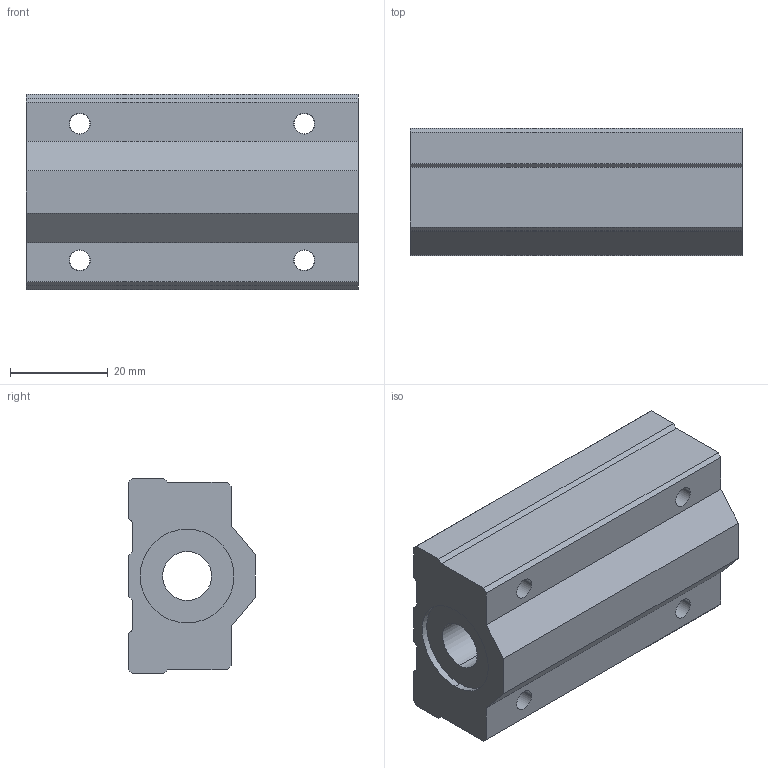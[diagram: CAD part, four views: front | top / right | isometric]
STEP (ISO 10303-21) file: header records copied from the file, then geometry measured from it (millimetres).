
FILE_DESCRIPTION(('FreeCAD Model'),'2;1');
FILE_NAME('Open CASCADE Shape Model','2021-05-03T09:08:49',('Author'),( ''),'Open CASCADE STEP processor 7.5','FreeCAD','Unknown');
FILE_SCHEMA(('AUTOMOTIVE_DESIGN { 1 0 10303 214 1 1 1 1 }'));
Length unit declared in the file: millimetre
Products named in the file (1): ball_bearing_sc10luu
Bounding box: 68 x 26 x 40 mm (x, y, z)
Volume: 52287 mm3; surface area: 20557.9 mm2
Topology: 1 solids, 2 shells, 102 faces, 257 edges, 169 vertices
Faces by surface type: cylinder 44, plane 42, cone 8, torus 8
Entity records: 7221 total; most frequent: CARTESIAN_POINT 1503, DIRECTION 1032, LINE 544, VECTOR 544, ORIENTED_EDGE 514, PCURVE 514, DEFINITIONAL_REPRESENTATION 514, EDGE_CURVE 257
